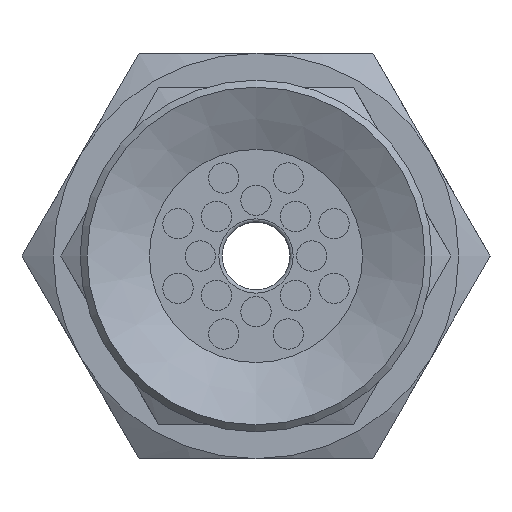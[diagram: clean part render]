
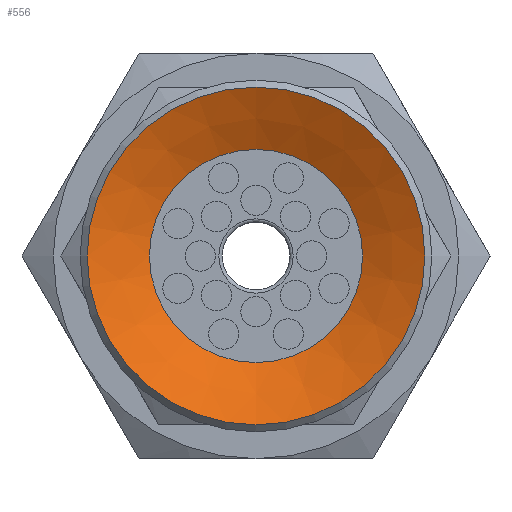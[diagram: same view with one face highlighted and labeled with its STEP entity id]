
A CAD part, front view. The second image highlights one B-rep face of the part: STEP entity #556.
In plain terms, the highlighted conical face has half-angle 64 degrees and reference radius 5 mm.
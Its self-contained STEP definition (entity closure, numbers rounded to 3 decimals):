
#556=ADVANCED_FACE('',(#880,#881),#882,.F.);
#880=FACE_BOUND('',#1273,.T.);
#881=FACE_OUTER_BOUND('',#1274,.T.);
#882=CONICAL_SURFACE('',#1275,5.0,1.117);
#1273=EDGE_LOOP('',(#1987));
#1274=EDGE_LOOP('',(#1988));
#1275=AXIS2_PLACEMENT_3D('',#1989,#1990,#1991);
#1987=ORIENTED_EDGE('',*,*,#2434,.T.);
#1988=ORIENTED_EDGE('',*,*,#2466,.F.);
#1989=CARTESIAN_POINT('',(0.0,0.,0.));
#1990=DIRECTION('',(0.0,0.,-1.0));
#1991=DIRECTION('',(0.0,1.0,0.));
#2434=EDGE_CURVE('',#2758,#2758,#2759,.T.);
#2466=EDGE_CURVE('',#2822,#2822,#2823,.T.);
#2758=VERTEX_POINT('',#3458);
#2759=CIRCLE('',#3459,3.155);
#2822=VERTEX_POINT('',#3522);
#2823=CIRCLE('',#3523,5.0);
#3458=CARTESIAN_POINT('',(0.0,-3.155,0.9));
#3459=AXIS2_PLACEMENT_3D('',#3948,#3949,#3950);
#3522=CARTESIAN_POINT('',(0.0,-5.0,0.));
#3523=AXIS2_PLACEMENT_3D('',#4044,#4045,#4046);
#3948=CARTESIAN_POINT('',(0.0,0.,0.9));
#3949=DIRECTION('',(0.0,0.,1.0));
#3950=DIRECTION('',(0.0,-1.0,0.));
#4044=CARTESIAN_POINT('',(0.0,0.,0.));
#4045=DIRECTION('',(0.0,0.,1.0));
#4046=DIRECTION('',(0.0,-1.0,0.));
